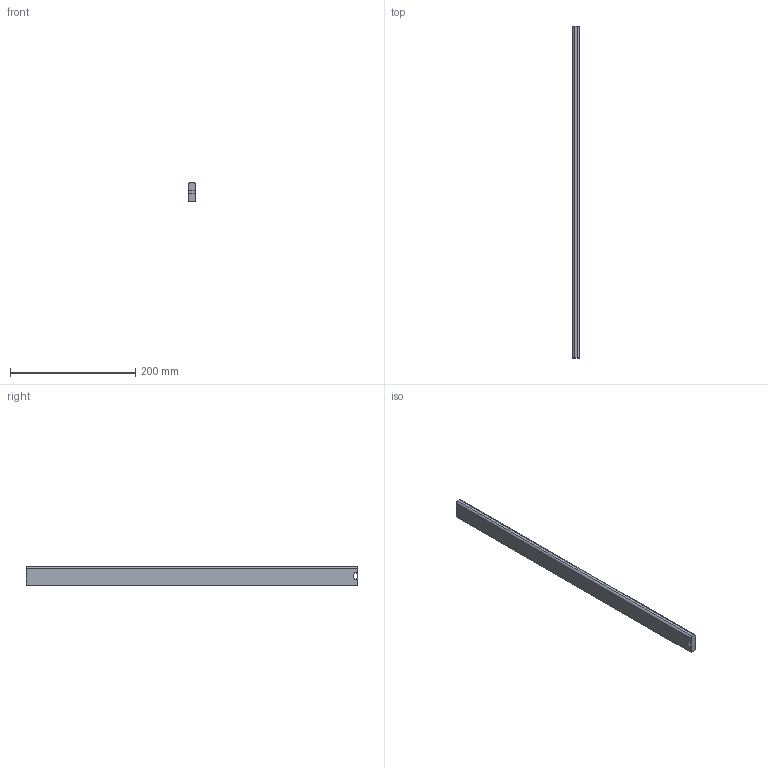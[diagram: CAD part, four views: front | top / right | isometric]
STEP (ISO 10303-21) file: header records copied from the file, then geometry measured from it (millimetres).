
FILE_DESCRIPTION (( 'STEP AP214' ), '1' );
FILE_NAME ('_Seitenreling_S610000200_RL530.step', '2010-09-06T14:51:22', ( 'grass' ), ( '' ), 'SwSTEP 2.0', 'SolidWorks 2010', '' );
FILE_SCHEMA (( 'AUTOMOTIVE_DESIGN' ));
Length unit declared in the file: millimetre
Products named in the file (1): _Seitenreling_S610000200_RL530
Bounding box: 10.5 x 530 x 30 mm (x, y, z)
Volume: 164434 mm3; surface area: 42368.1 mm2
Topology: 1 solids, 1 shells, 12 faces, 30 edges, 20 vertices
Faces by surface type: plane 8, cylinder 4
Entity records: 400 total; most frequent: DIRECTION 64, CARTESIAN_POINT 63, ORIENTED_EDGE 60, EDGE_CURVE 30, LINE 22, VECTOR 22, AXIS2_PLACEMENT_3D 21, VERTEX_POINT 20
